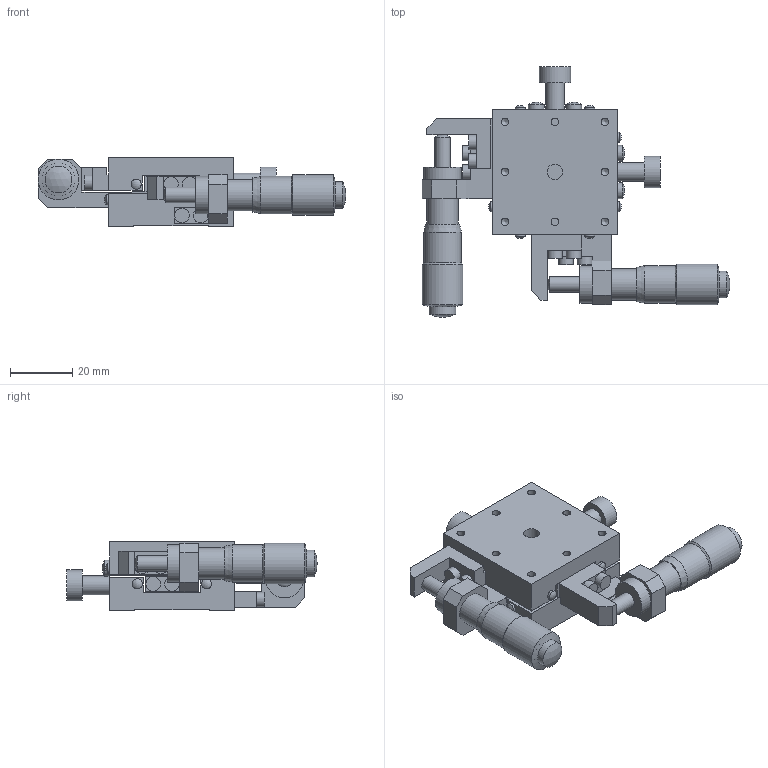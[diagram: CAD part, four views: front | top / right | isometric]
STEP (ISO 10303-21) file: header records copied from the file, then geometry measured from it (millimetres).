
FILE_DESCRIPTION( ( 'STEP AP214' ), '1' );
FILE_NAME( 'C:/Project/3D_B23-40C-配布-070508.stp', '2007-05-08T10:43:00', ( ' ' ), ( ' ' ), 'XStep 1.0', ' ', ' ' );
FILE_SCHEMA( ( 'automotive_design' ) );
Length unit declared in the file: millimetre
Products named in the file (5): 1; 2; 3; 4; 5
Bounding box: 98.46 x 80.11 x 22 mm (x, y, z)
Volume: 46512.7 mm3; surface area: 27786.3 mm2
Topology: 5 solids, 5 shells, 268 faces, 652 edges, 430 vertices
Faces by surface type: plane 154, cylinder 86, sphere 16, cone 12
Full cylindrical faces by diameter (mm): 2.5 x14, 3 x2, 3.2 x9, 3.5 x4, 4.7 x8, 5 x9, 6 x2, 8.6 x2, 10 x4, 10.5 x2, 12 x4, 13 x2
Entity records: 9452 total; most frequent: DIRECTION 1266, CARTESIAN_POINT 1219, ORIENTED_EDGE 1088, EDGE_CURVE 544, AXIS2_PLACEMENT_3D 449, VERTEX_POINT 402, EDGE_LOOP 400, LINE 368
